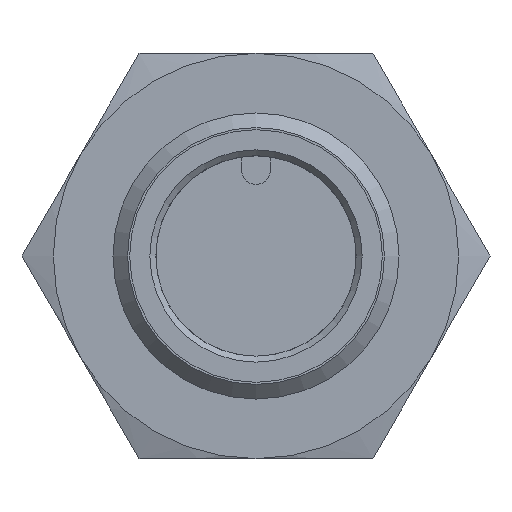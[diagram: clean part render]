
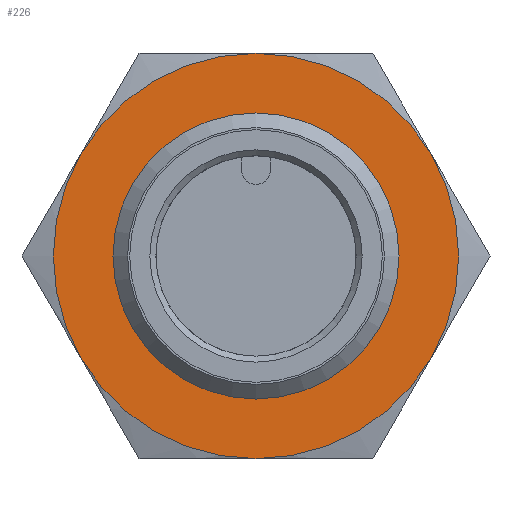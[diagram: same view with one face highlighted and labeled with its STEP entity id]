
A CAD part, left-side view. The second image highlights one B-rep face of the part: STEP entity #226.
In plain terms, the highlighted planar face has unit normal (-1, 0, 0).
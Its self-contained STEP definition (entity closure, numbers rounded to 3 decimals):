
#226 = ADVANCED_FACE( '', ( #362, #363 ), #364, .F. );
#362 = FACE_OUTER_BOUND( '', #510, .T. );
#363 = FACE_BOUND( '', #511, .T. );
#364 = PLANE( '', #512 );
#510 = EDGE_LOOP( '', ( #793, #794, #795, #796, #797, #798 ) );
#511 = EDGE_LOOP( '', ( #799 ) );
#512 = AXIS2_PLACEMENT_3D( '', #800, #801, #802 );
#793 = ORIENTED_EDGE( '', *, *, #949, .F. );
#794 = ORIENTED_EDGE( '', *, *, #950, .F. );
#795 = ORIENTED_EDGE( '', *, *, #951, .F. );
#796 = ORIENTED_EDGE( '', *, *, #947, .F. );
#797 = ORIENTED_EDGE( '', *, *, #945, .F. );
#798 = ORIENTED_EDGE( '', *, *, #946, .F. );
#799 = ORIENTED_EDGE( '', *, *, #937, .T. );
#800 = CARTESIAN_POINT( '', ( 0., 0., 0. ) );
#801 = DIRECTION( '', ( 1., 0., 0. ) );
#802 = DIRECTION( '', ( 0., 0., -1. ) );
#937 = EDGE_CURVE( '', #1076, #1076, #1077, .T. );
#945 = EDGE_CURVE( '', #1049, #1067, #1088, .T. );
#946 = EDGE_CURVE( '', #1058, #1049, #1089, .T. );
#947 = EDGE_CURVE( '', #1067, #1090, #1091, .T. );
#949 = EDGE_CURVE( '', #1093, #1058, #1094, .T. );
#950 = EDGE_CURVE( '', #1095, #1093, #1096, .T. );
#951 = EDGE_CURVE( '', #1090, #1095, #1097, .T. );
#1049 = VERTEX_POINT( '', #1523 );
#1058 = VERTEX_POINT( '', #1547 );
#1067 = VERTEX_POINT( '', #1569 );
#1076 = VERTEX_POINT( '', #1584 );
#1077 = CIRCLE( '', #1585, 6. );
#1088 = CIRCLE( '', #1599, 8.5 );
#1089 = CIRCLE( '', #1600, 8.5 );
#1090 = VERTEX_POINT( '', #1601 );
#1091 = CIRCLE( '', #1602, 8.5 );
#1093 = VERTEX_POINT( '', #1607 );
#1094 = CIRCLE( '', #1608, 8.5 );
#1095 = VERTEX_POINT( '', #1609 );
#1096 = CIRCLE( '', #1610, 8.5 );
#1097 = CIRCLE( '', #1611, 8.5 );
#1523 = CARTESIAN_POINT( '', ( 0., 0., 8.5 ) );
#1547 = CARTESIAN_POINT( '', ( 0., 7.361, 4.25 ) );
#1569 = CARTESIAN_POINT( '', ( 0., -7.361, 4.25 ) );
#1584 = CARTESIAN_POINT( '', ( 0., 0., -6. ) );
#1585 = AXIS2_PLACEMENT_3D( '', #1757, #1758, #1759 );
#1599 = AXIS2_PLACEMENT_3D( '', #1778, #1779, #1780 );
#1600 = AXIS2_PLACEMENT_3D( '', #1781, #1782, #1783 );
#1601 = CARTESIAN_POINT( '', ( 0., -7.361, -4.25 ) );
#1602 = AXIS2_PLACEMENT_3D( '', #1784, #1785, #1786 );
#1607 = CARTESIAN_POINT( '', ( 0., 7.361, -4.25 ) );
#1608 = AXIS2_PLACEMENT_3D( '', #1787, #1788, #1789 );
#1609 = CARTESIAN_POINT( '', ( 0., 0., -8.5 ) );
#1610 = AXIS2_PLACEMENT_3D( '', #1790, #1791, #1792 );
#1611 = AXIS2_PLACEMENT_3D( '', #1793, #1794, #1795 );
#1757 = CARTESIAN_POINT( '', ( 0., 0., 0. ) );
#1758 = DIRECTION( '', ( 1., 0., 0. ) );
#1759 = DIRECTION( '', ( 0., 0., -1. ) );
#1778 = CARTESIAN_POINT( '', ( 0., 0., 0. ) );
#1779 = DIRECTION( '', ( 1., 0., 0. ) );
#1780 = DIRECTION( '', ( 0., 0., -1. ) );
#1781 = CARTESIAN_POINT( '', ( 0., 0., 0. ) );
#1782 = DIRECTION( '', ( 1., 0., 0. ) );
#1783 = DIRECTION( '', ( 0., 0., -1. ) );
#1784 = CARTESIAN_POINT( '', ( 0., 0., 0. ) );
#1785 = DIRECTION( '', ( 1., 0., 0. ) );
#1786 = DIRECTION( '', ( 0., 0., -1. ) );
#1787 = CARTESIAN_POINT( '', ( 0., 0., 0. ) );
#1788 = DIRECTION( '', ( 1., 0., 0. ) );
#1789 = DIRECTION( '', ( 0., 0., -1. ) );
#1790 = CARTESIAN_POINT( '', ( 0., 0., 0. ) );
#1791 = DIRECTION( '', ( 1., 0., 0. ) );
#1792 = DIRECTION( '', ( 0., 0., -1. ) );
#1793 = CARTESIAN_POINT( '', ( 0., 0., 0. ) );
#1794 = DIRECTION( '', ( 1., 0., 0. ) );
#1795 = DIRECTION( '', ( 0., 0., -1. ) );
